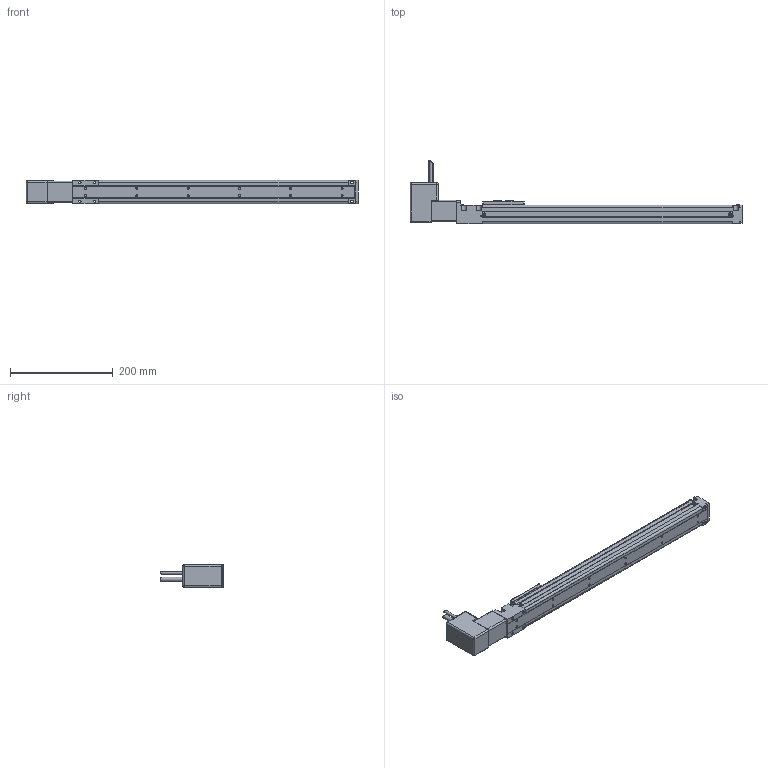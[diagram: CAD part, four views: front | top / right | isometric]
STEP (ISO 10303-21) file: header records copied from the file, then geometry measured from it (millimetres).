
FILE_DESCRIPTION(/* description */ ('Alibre Inc.'),/* implementation_level */ '2;1');
FILE_NAME(/* name */ 'export0',/* time_stamp */ '2010-03-31T14:59:44-04:00',/* author */ (''),/* organization */ (''),/* preprocessor_version */ 'ST-DEVELOPER v10',/* originating_system */ 'Alibre',/* authorisation */ '');
FILE_SCHEMA (('CONFIG_CONTROL_DESIGN'));
Length unit declared in the file: millimetre
Products named in the file (4): 1; 2; ID_1
Bounding box: 647 x 124.18 x 45 mm (x, y, z)
Volume: 531534.2 mm3; surface area: 240395 mm2
Topology: 3 solids, 3 shells, 721 faces, 1871 edges, 1156 vertices
Faces by surface type: plane 430, cylinder 163, cone 114, torus 8, sphere 6
Full cylindrical faces by diameter (mm): 2.459 x3, 2.5 x1, 5 x1, 5.6 x1, 8.5 x1, 22 x1
Entity records: 21562 total; most frequent: CARTESIAN_POINT 3862, ORIENTED_EDGE 3652, DIRECTION 3261, EDGE_CURVE 1826, VECTOR 1353, LINE 1353, AXIS2_PLACEMENT_3D 1172, VERTEX_POINT 1153
